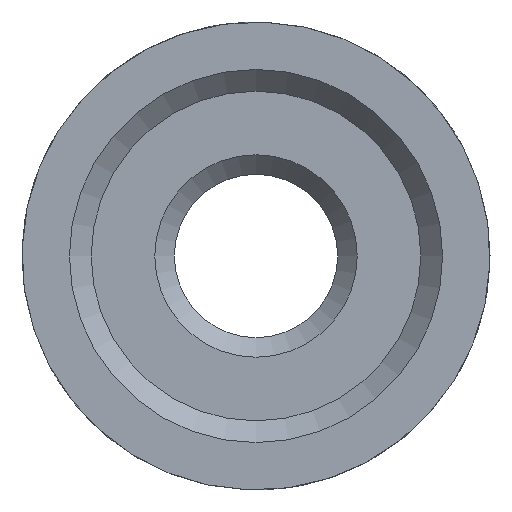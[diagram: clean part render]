
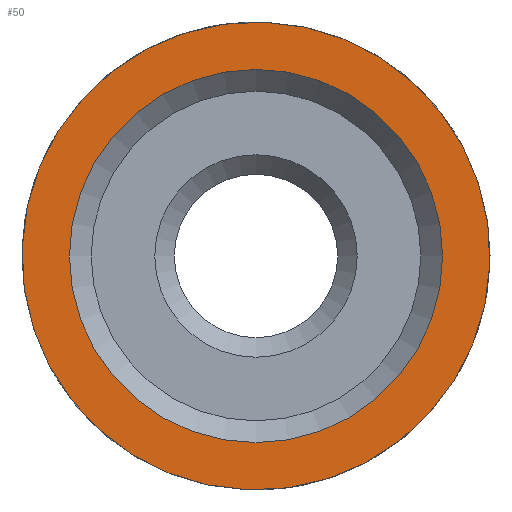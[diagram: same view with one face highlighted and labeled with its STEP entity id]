
A CAD part, front view. The second image highlights one B-rep face of the part: STEP entity #50.
In plain terms, the highlighted planar face has unit normal (0, -1, 0).
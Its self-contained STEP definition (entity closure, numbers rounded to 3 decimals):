
#50=ADVANCED_FACE('',(#173,#175),#177,.T.);
#173=FACE_BOUND('',#174,.T.);
#174=EDGE_LOOP('',(#876));
#175=FACE_BOUND('',#176,.T.);
#176=EDGE_LOOP('',(#877));
#177=PLANE('',#178);
#178=AXIS2_PLACEMENT_3D('',#179,#180,#181);
#179=CARTESIAN_POINT('',(0.,-24.5,0.));
#180=DIRECTION('',(0.,-1.,0.));
#181=DIRECTION('',(-1.,0.,0.));
#876=ORIENTED_EDGE('',*,*,#1082,.T.);
#877=ORIENTED_EDGE('',*,*,#1083,.T.);
#1082=EDGE_CURVE('',#1197,#1197,#1198,.T.);
#1083=EDGE_CURVE('',#1199,#1199,#1200,.F.);
#1197=VERTEX_POINT('',#1423);
#1198=CIRCLE('',#1424,21.5);
#1199=VERTEX_POINT('',#1428);
#1200=CIRCLE('',#1429,17.146);
#1423=CARTESIAN_POINT('',(-19.,-24.5,-10.062));
#1424=AXIS2_PLACEMENT_3D('',#1425,#1426,#1427);
#1425=CARTESIAN_POINT('',(0.,-24.5,0.));
#1426=DIRECTION('',(0.,-1.,0.));
#1427=DIRECTION('',(-1.,0.,0.));
#1428=CARTESIAN_POINT('',(0.,-24.5,-17.146));
#1429=AXIS2_PLACEMENT_3D('',#1430,#1431,#1432);
#1430=CARTESIAN_POINT('',(0.,-24.5,0.));
#1431=DIRECTION('',(0.,-1.,0.));
#1432=DIRECTION('',(0.,0.,-1.));
